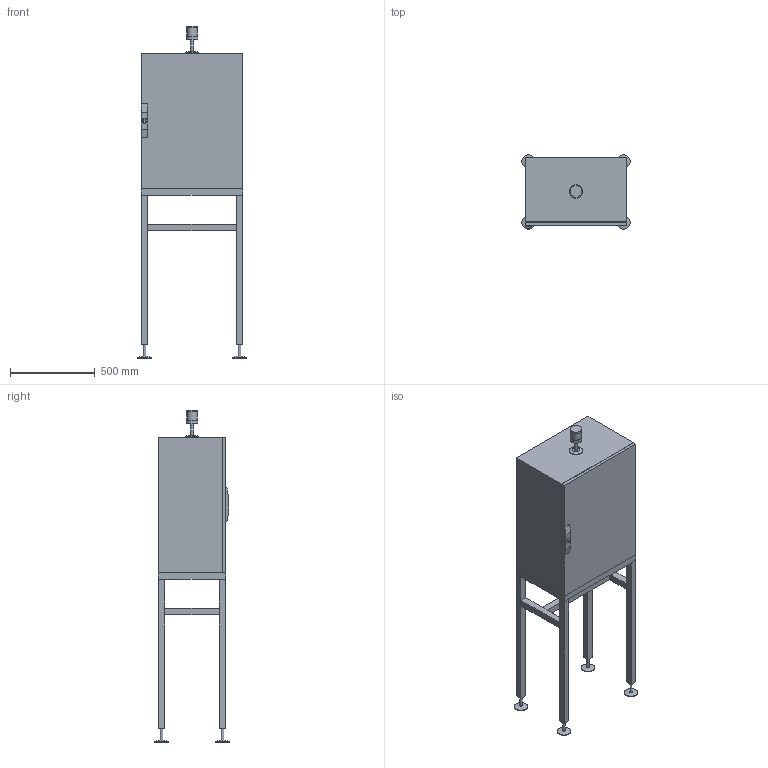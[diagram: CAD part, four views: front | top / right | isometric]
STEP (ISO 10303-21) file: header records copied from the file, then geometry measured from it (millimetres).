
FILE_DESCRIPTION(('FreeCAD Model'),'2;1');
FILE_NAME('/home/martin/Documents/ARMARIOS/3D/002.step', '2022-06-26T06:45:39',('FreeCAD'),('FreeCAD'), 'Open CASCADE STEP processor 7.3','FreeCAD','Unknown');
FILE_SCHEMA(('AUTOMOTIVE_DESIGN { 1 0 10303 214 1 1 1 1 }'));
Length unit declared in the file: millimetre
Products named in the file (6): Open CASCADE STEP translator 7.3 3; Open CASCADE STEP translator 7.3 3.1; Open CASCADE STEP translator 7.3 3.2; Open CASCADE STEP translator 7.3 3.3; Open CASCADE STEP translator 7.3 3.4; Open CASCADE STEP translator 7.3 3.5
Assembly tree (5 placements, depth 2):
  Open CASCADE STEP translator 7.3 3
    Open CASCADE STEP translator 7.3 3.1
    Open CASCADE STEP translator 7.3 3.2
    Open CASCADE STEP translator 7.3 3.3
    Open CASCADE STEP translator 7.3 3.4
    Open CASCADE STEP translator 7.3 3.5
Bounding box: 640 x 440 x 1960 mm (x, y, z)
Volume: 202074007.1 mm3; surface area: 4187945.9 mm2
Topology: 5 solids, 5 shells, 114 faces, 238 edges, 141 vertices
Faces by surface type: plane 95, cylinder 14, cone 5
Full cylindrical faces by diameter (mm): 16 x5, 30 x1, 60 x1, 70 x2, 80 x5
Entity records: 6126 total; most frequent: CARTESIAN_POINT 991, DIRECTION 976, LINE 643, VECTOR 643, ORIENTED_EDGE 476, PCURVE 476, DEFINITIONAL_REPRESENTATION 476, EDGE_CURVE 238
